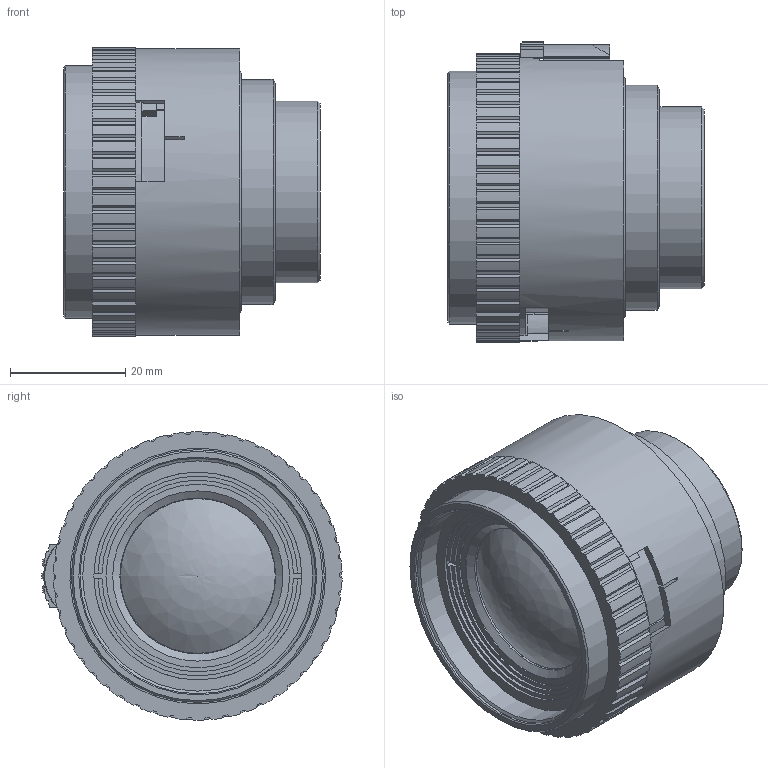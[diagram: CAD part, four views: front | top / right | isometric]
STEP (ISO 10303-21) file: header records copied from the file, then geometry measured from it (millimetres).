
FILE_DESCRIPTION(/* description */ (''),/* implementation_level */ '2;1');
FILE_NAME(/* name */ '0701-391-100-40_AP',/* time_stamp */ '2009-08-03T15:18:38+02:00',/* author */ (''),/* organization */ (''),/* preprocessor_version */ 'ST-DEVELOPER v9',/* originating_system */ 'UGS - NX 4.0',/* authorisation */ '');
FILE_SCHEMA (('AUTOMOTIVE_DESIGN { 1 0 10303 214 1 1 1 1 }'));
Length unit declared in the file: millimetre
Products named in the file (1): pant14D6simz
Bounding box: 44.48 x 51.99 x 50 mm (x, y, z)
Volume: 54757.3 mm3; surface area: 23156.2 mm2
Topology: 2 solids, 3 shells, 477 faces, 1239 edges, 787 vertices
Faces by surface type: plane 350, cylinder 109, cone 16, revolution 2
Full cylindrical faces by diameter (mm): 24.2 x1, 26.6 x1, 27 x1, 27.887 x1, 29.5 x1, 31.3 x1, 31.5 x1, 31.8 x1, 35.6 x1, 36 x1, 39 x1, 39.7 x1, 39.8 x1, 39.887 x1, 40.2 x1, 40.35 x2, 40.5 x2, 40.8 x1, 41.5 x1, 42.2 x1, 43.8 x1, 44.3 x1, 49.7 x1
Entity records: 17657 total; most frequent: CARTESIAN_POINT 2603, DIRECTION 2467, ORIENTED_EDGE 2370, EDGE_CURVE 1185, AXIS2_PLACEMENT_3D 824, LINE 817, VECTOR 817, VERTEX_POINT 774
